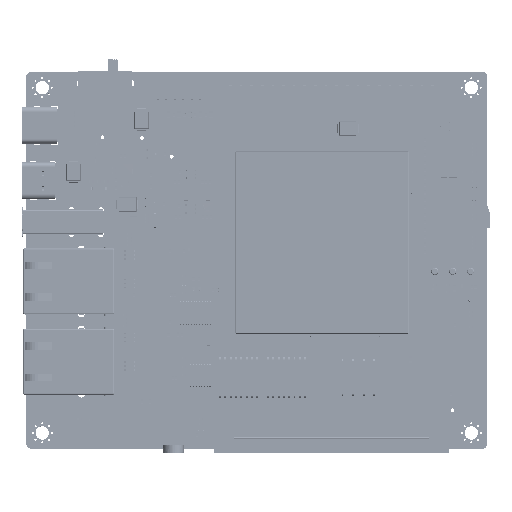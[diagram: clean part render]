
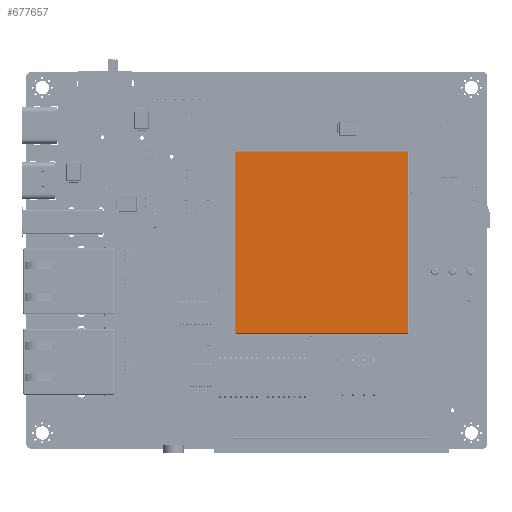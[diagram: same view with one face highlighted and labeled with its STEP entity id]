
A CAD part, top view. The second image highlights one B-rep face of the part: STEP entity #677657.
In plain terms, the highlighted planar face has unit normal (0, 0, 1) as drawn and (0, 1, 0) by its records, which use the part's own axes.
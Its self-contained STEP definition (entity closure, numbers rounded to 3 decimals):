
#674888=DIRECTION('',(0.,0.,-1.));
#674889=VECTOR('',#674888,43.06);
#674890=CARTESIAN_POINT('',(-20.53,0.2,21.53));
#674891=LINE('',#674890,#674889);
#675507=DIRECTION('',(-1.,0.,0.));
#675508=VECTOR('',#675507,41.06);
#675509=CARTESIAN_POINT('',(20.53,0.2,21.53));
#675510=LINE('',#675509,#675508);
#675537=DIRECTION('',(1.,0.,0.));
#675538=VECTOR('',#675537,41.06);
#675539=CARTESIAN_POINT('',(-20.53,0.2,-21.53));
#675540=LINE('',#675539,#675538);
#676090=DIRECTION('',(0.,0.,1.));
#676091=VECTOR('',#676090,43.06);
#676092=CARTESIAN_POINT('',(20.53,0.2,-21.53));
#676093=LINE('',#676092,#676091);
#676513=CARTESIAN_POINT('',(-20.53,0.2,-21.53));
#676514=VERTEX_POINT('',#676513);
#676515=CARTESIAN_POINT('',(-20.53,0.2,21.53));
#676516=VERTEX_POINT('',#676515);
#676525=CARTESIAN_POINT('',(20.53,0.2,21.53));
#676526=VERTEX_POINT('',#676525);
#676527=CARTESIAN_POINT('',(20.53,0.2,-21.53));
#676528=VERTEX_POINT('',#676527);
#677644=CARTESIAN_POINT('',(0.,0.2,0.));
#677645=DIRECTION('',(0.,1.,0.));
#677646=DIRECTION('',(1.,0.,0.));
#677647=AXIS2_PLACEMENT_3D('',#677644,#677645,#677646);
#677648=PLANE('',#677647);
#677649=ORIENTED_EDGE('',*,*,#677635,.T.);
#677650=ORIENTED_EDGE('',*,*,#677122,.T.);
#677652=ORIENTED_EDGE('',*,*,#677651,.T.);
#677654=ORIENTED_EDGE('',*,*,#677653,.T.);
#677655=EDGE_LOOP('',(#677649,#677650,#677652,#677654));
#677656=FACE_OUTER_BOUND('',#677655,.F.);
#677122=EDGE_CURVE('',#676516,#676514,#674891,.T.);
#677635=EDGE_CURVE('',#676526,#676516,#675510,.T.);
#677651=EDGE_CURVE('',#676514,#676528,#675540,.T.);
#677653=EDGE_CURVE('',#676528,#676526,#676093,.T.);
#677657=ADVANCED_FACE('',(#677656),#677648,.T.);
